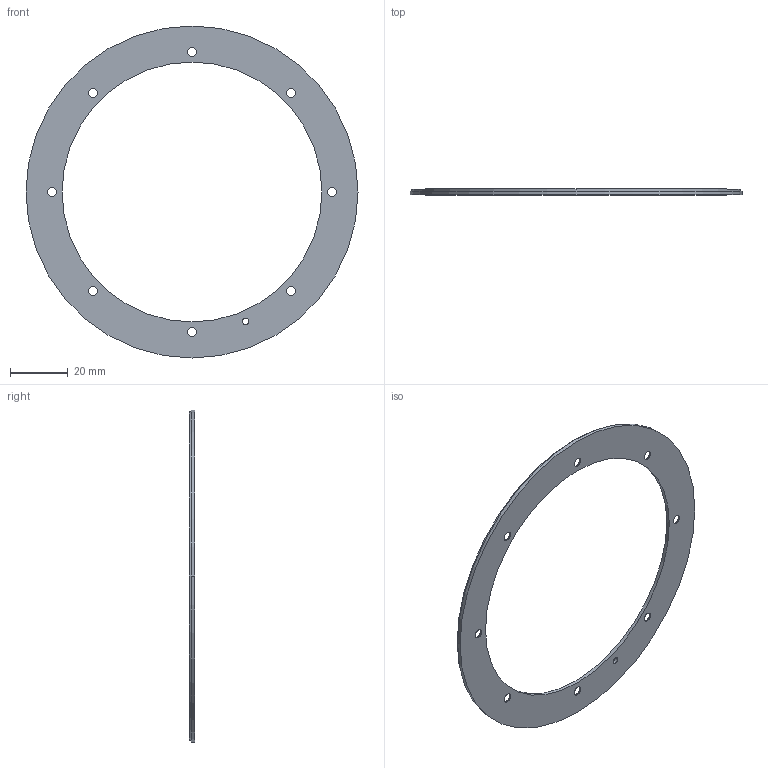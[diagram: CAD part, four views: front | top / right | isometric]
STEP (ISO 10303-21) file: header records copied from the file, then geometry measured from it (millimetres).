
FILE_DESCRIPTION (( 'STEP AP214' ), '1' );
FILE_NAME ('MRA115BC090BSH00D02_00.STEP', '2022-12-01T14:03:48', ( '' ), ( '' ), 'SwSTEP 2.0', 'SolidWorks 2020', '' );
FILE_SCHEMA (( 'AUTOMOTIVE_DESIGN' ));
Length unit declared in the file: millimetre
Products named in the file (1): MRA115BC090BSH00D02_00
Bounding box: 115 x 2 x 115 mm (x, y, z)
Volume: 5994.5 mm3; surface area: 12506.9 mm2
Topology: 2 solids, 2 shells, 439 faces, 1166 edges, 772 vertices
Faces by surface type: plane 238, bspline 148, cylinder 37, cone 16
Entity records: 25262 total; most frequent: CARTESIAN_POINT 10358, ORIENTED_EDGE 2332, DIRECTION 1544, EDGE_CURVE 1166, VECTOR 780, LINE 780, VERTEX_POINT 772, EDGE_LOOP 502
